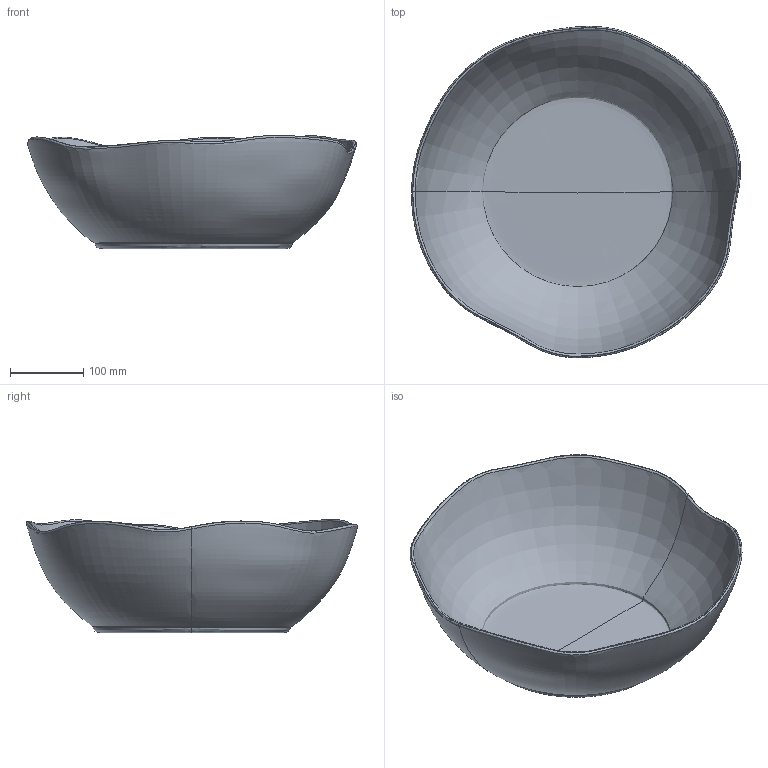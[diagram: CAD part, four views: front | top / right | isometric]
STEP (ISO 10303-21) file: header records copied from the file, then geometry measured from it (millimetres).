
FILE_DESCRIPTION(/* description */ (''),/* implementation_level */ '2;1');
FILE_NAME(/* name */ 'Native Bowl Hexa',/* time_stamp */ '2024-07-25T11:16:22+02:00',/* author */ (''),/* organization */ (''),/* preprocessor_version */ 'ST-DEVELOPER v16.5',/* originating_system */ 'Rhino 7.37',/* authorisation */ '');
FILE_SCHEMA (('CONFIG_CONTROL_DESIGN'));
Length unit declared in the file: millimetre
Products named in the file (1): Document
Bounding box: 449.74 x 453.06 x 154.93 mm (x, y, z)
Surface area: 520985.5 mm2 (no closed solid volume)
Topology: 0 solids, 1 shells, 10 faces, 32 edges, 16 vertices
Faces by surface type: bspline 10
Entity records: 15967 total; most frequent: CARTESIAN_POINT 15559, B_SPLINE_CURVE_WITH_KNOTS 67, ORIENTED_EDGE 47, PCURVE 47, DEFINITIONAL_REPRESENTATION 47, SURFACE_CURVE 28, EDGE_CURVE 28, VERTEX_POINT 16
